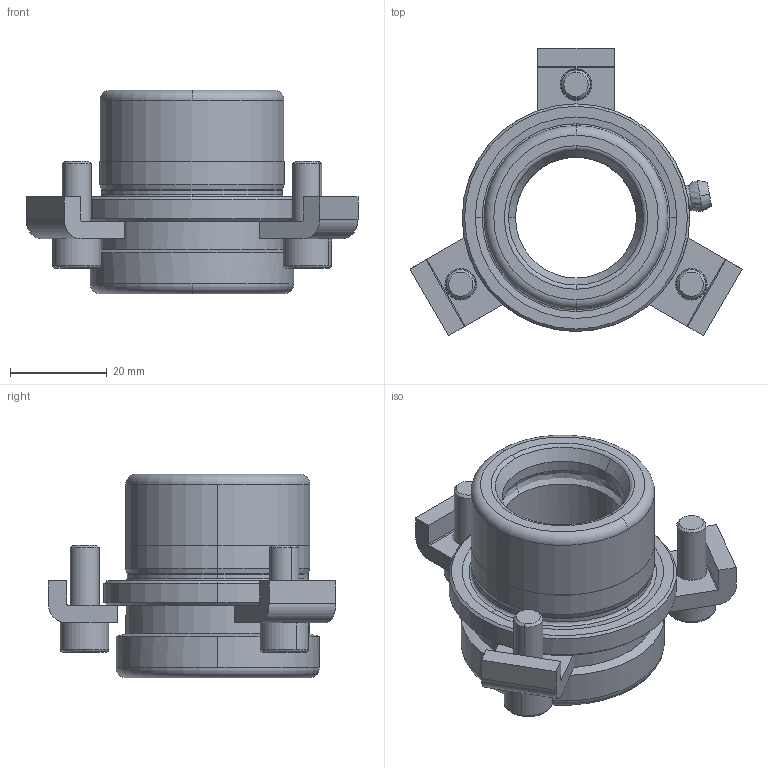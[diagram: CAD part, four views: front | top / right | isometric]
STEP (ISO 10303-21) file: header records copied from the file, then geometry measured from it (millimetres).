
FILE_DESCRIPTION((''),'2;1');
FILE_NAME('B10_025_020.stp','2008-11-04T16:52:36',(''),(''),'Mechanical Desktop 2009','Mechanical Desktop 2009',', , ');
FILE_SCHEMA(('CONFIG_CONTROL_DESIGN'));
Length unit declared in the file: millimetre
Products named in the file (2): Product; blmdl1
Assembly tree (1 placements, depth 2):
  Product
    blmdl1
Bounding box: 68.57 x 59.38 x 42 mm (x, y, z)
Volume: 36431.4 mm3; surface area: 16250.9 mm2
Topology: 8 solids, 8 shells, 170 faces, 436 edges, 289 vertices
Faces by surface type: plane 69, cylinder 49, cone 20, bspline 16, torus 16
Entity records: 6446 total; most frequent: CARTESIAN_POINT 2108, DIRECTION 936, ORIENTED_EDGE 864, EDGE_CURVE 432, AXIS2_PLACEMENT_3D 374, VERTEX_POINT 287, CIRCLE 218, EDGE_LOOP 189
